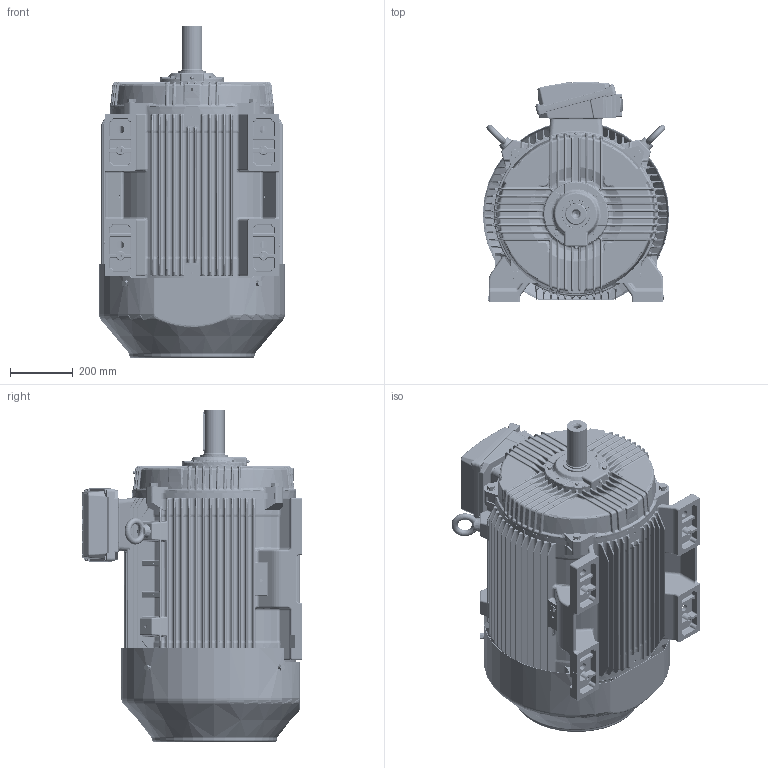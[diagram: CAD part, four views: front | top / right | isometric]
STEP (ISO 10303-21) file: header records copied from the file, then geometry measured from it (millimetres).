
FILE_DESCRIPTION (( 'STEP AP203' ), '1' );
FILE_NAME ('0228000607_RevC.STEP', '2019-04-24T08:52:28', ( '' ), ( '' ), 'SwSTEP 2.0', 'SolidWorks 2015', '' );
FILE_SCHEMA (( 'CONFIG_CONTROL_DESIGN' ));
Length unit declared in the file: inch
Products named in the file (1): 0228000607_RevC
Bounding box: 595 x 701.56 x 1059.5 mm (x, y, z)
Volume: 40384289.7 mm3; surface area: 7684877.4 mm2
Topology: 76 solids, 77 shells, 14576 faces, 35952 edges, 21112 vertices
Faces by surface type: cylinder 4573, bspline 3735, plane 2463, torus 1607, cone 1204, sphere 994
Entity records: 580285 total; most frequent: CARTESIAN_POINT 262241, ORIENTED_EDGE 70586, DIRECTION 63749, EDGE_CURVE 35293, AXIS2_PLACEMENT_3D 27015, VERTEX_POINT 21000, CIRCLE 16173, EDGE_LOOP 15729
